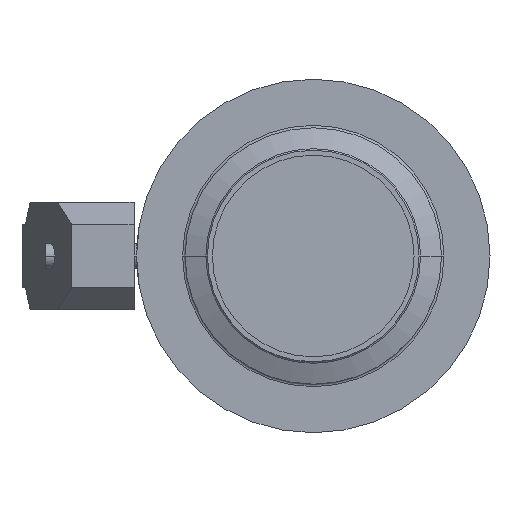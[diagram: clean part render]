
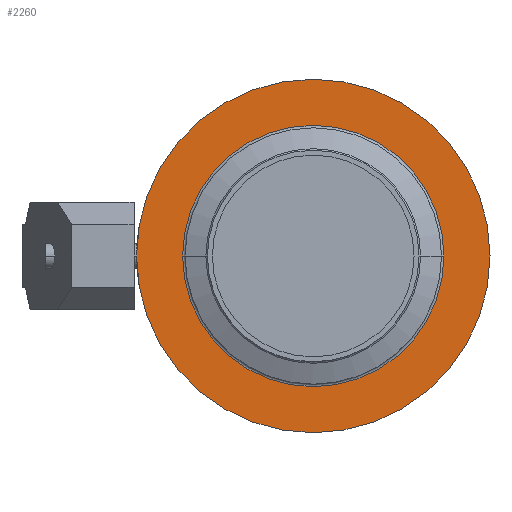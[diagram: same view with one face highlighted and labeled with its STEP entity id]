
A CAD part, left-side view. The second image highlights one B-rep face of the part: STEP entity #2260.
In plain terms, the highlighted planar face has unit normal (-1, 0, 0).
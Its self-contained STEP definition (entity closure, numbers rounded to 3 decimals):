
#130=CARTESIAN_POINT('',(-265.595,-14.625,0.));
#140=VERTEX_POINT('',#130);
#170=CARTESIAN_POINT('',(-265.595,37.875,0.));
#180=DIRECTION('',(1.,0.,0.));
#190=DIRECTION('',(0.,1.,0.));
#200=AXIS2_PLACEMENT_3D('',#170,#180,#190);
#210=CIRCLE('',#200,52.5);
#220=CARTESIAN_POINT('',(-265.595,90.375,0.));
#230=VERTEX_POINT('',#220);
#240=EDGE_CURVE('',#140,#230,#210,.T.);
#2010=CARTESIAN_POINT('',(-265.595,106.525,0.));
#2020=DIRECTION('',(1.,0.,0.));
#2030=DIRECTION('',(0.,-1.,0.));
#2040=AXIS2_PLACEMENT_3D('',#2010,#2020,#2030);
#2050=PLANE('',#2040);
#2060=EDGE_CURVE('',#230,#140,#210,.T.);
#2070=ORIENTED_EDGE('',*,*,#2060,.T.);
#2080=ORIENTED_EDGE('',*,*,#240,.T.);
#2090=EDGE_LOOP('',(#2080,#2070));
#2100=FACE_BOUND('',#2090,.T.);
#2110=CARTESIAN_POINT('',(-265.595,37.875,0.));
#2120=DIRECTION('',(1.,0.,0.));
#2130=DIRECTION('',(0.,1.,0.));
#2140=AXIS2_PLACEMENT_3D('',#2110,#2120,#2130);
#2150=CIRCLE('',#2140,71.);
#2160=CARTESIAN_POINT('',(-265.595,108.875,0.));
#2170=VERTEX_POINT('',#2160);
#2180=CARTESIAN_POINT('',(-265.595,-33.125,
0.));
#2190=VERTEX_POINT('',#2180);
#2200=EDGE_CURVE('',#2170,#2190,#2150,.T.);
#2210=ORIENTED_EDGE('',*,*,#2200,.F.);
#2220=EDGE_CURVE('',#2190,#2170,#2150,.T.);
#2230=ORIENTED_EDGE('',*,*,#2220,.F.);
#2240=EDGE_LOOP('',(#2230,#2210));
#2250=FACE_OUTER_BOUND('',#2240,.T.);
#2260=ADVANCED_FACE('',(#2100,#2250),#2050,.F.);
